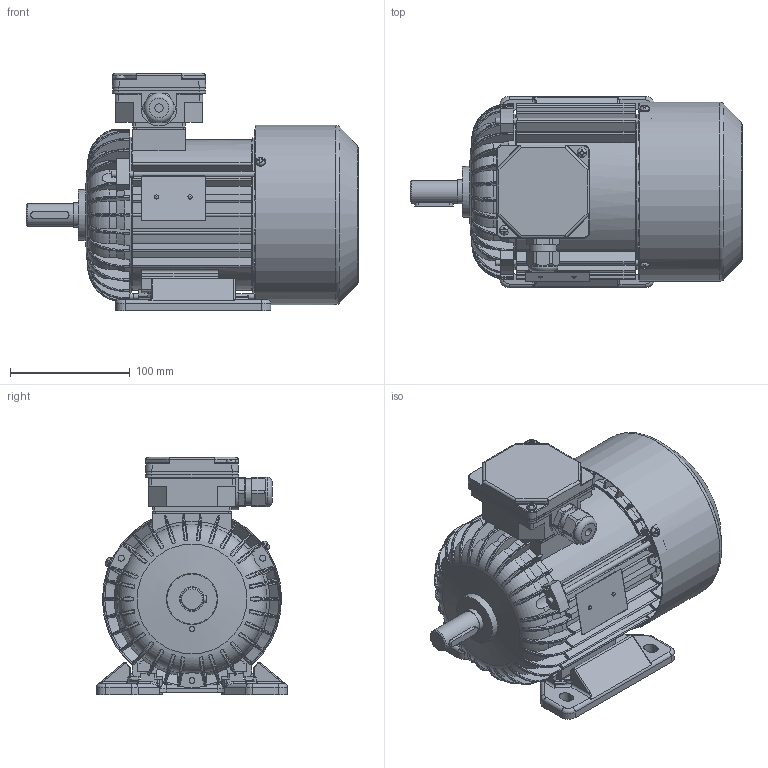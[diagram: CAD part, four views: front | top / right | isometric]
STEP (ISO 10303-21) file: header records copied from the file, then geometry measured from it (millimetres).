
FILE_DESCRIPTION(/* description */ ('Unknown'),/* implementation_level */ '2;1');
FILE_NAME(/* name */ '2SIE80-6A',/* time_stamp */ '2021-04-12T14:53:50+02:00',/* author */ ('Unknown'),/* organization */ ('Unknown'),/* preprocessor_version */ 'ST-DEVELOPER v16.7',/* originating_system */ 'Solid Edge',/* authorisation */ 'Unknown');
FILE_SCHEMA (('AUTOMOTIVE_DESIGN {1 0 10303 214 3 1 1}'));
Length unit declared in the file: millimetre
Products named in the file (1): 2SIE80-6A
Bounding box: 277.78 x 160 x 198.5 mm (x, y, z)
Volume: 915039.4 mm3; surface area: 519721.2 mm2
Topology: 3 solids, 3 shells, 2989 faces, 8397 edges, 5434 vertices
Faces by surface type: plane 1400, cylinder 939, torus 282, cone 178, bspline 168, sphere 22
Full cylindrical faces by diameter (mm): 2 x2, 2.4 x2, 3.7 x8, 4 x5, 4.5 x1, 4.6 x3, 4.8 x2, 5 x8, 5.5 x3, 6.5 x4, 7 x1, 8 x9, 18.998 x1, 19.298 x1, 19.498 x1, 20.298 x2, 20.398 x2, 20.4 x2, 22.3 x1, 25 x1, 25.497 x1, 25.997 x2, 26.097 x1, 26.997 x1, 28.799 x4, 34 x2, 38.198 x4, 42 x3, 47 x3, 83.992 x1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
Entity records: 124153 total; most frequent: CARTESIAN_POINT 30027, ORIENTED_EDGE 16154, DIRECTION 14794, EDGE_CURVE 8077, AXIS2_PLACEMENT_3D 5442, VERTEX_POINT 5319, LINE 3910, VECTOR 3910
